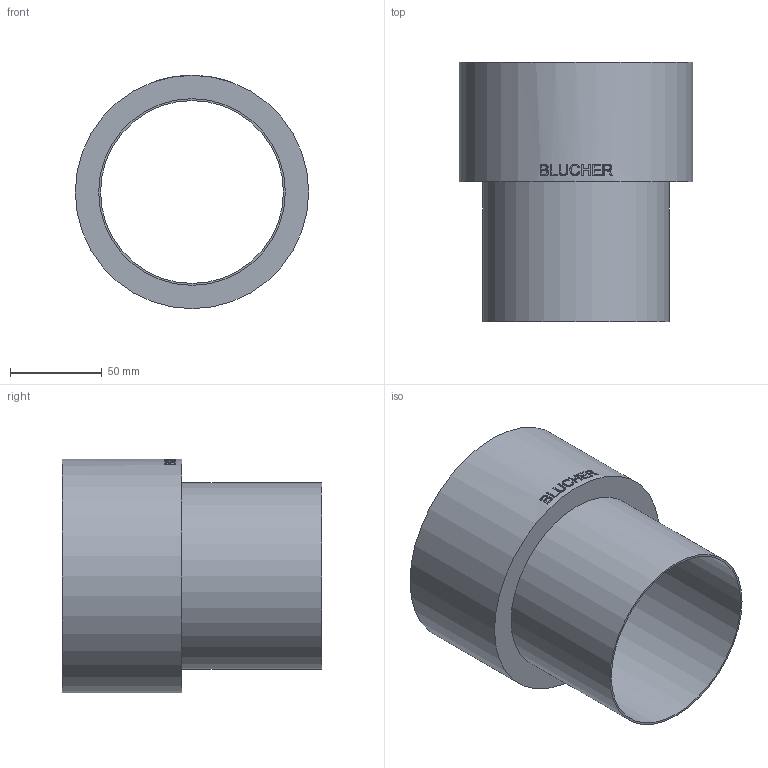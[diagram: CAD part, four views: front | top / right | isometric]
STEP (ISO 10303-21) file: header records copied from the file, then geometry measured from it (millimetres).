
FILE_DESCRIPTION((''),'2;1');
FILE_NAME('I:\WATTS\3D_CAD\3D_CAD_Models\Blucher_Drains\Fittings\Adapters\WebsiteFiles\3D\STEP\CIA-4-316.stp','2009-12-30T13:50:25',('menesek'),(''),'Autodesk Inventor 2010','Autodesk Inventor 2010','');
FILE_SCHEMA(('AUTOMOTIVE_DESIGN { 1 0 10303 214 1 1 1 1 }'));
Length unit declared in the file: inch
Products named in the file (1): CIA-4-316
Bounding box: 127 x 141.29 x 127 mm (x, y, z)
Volume: 55167.1 mm3; surface area: 109417.5 mm2
Topology: 1 solids, 1 shells, 106 faces, 276 edges, 184 vertices
Faces by surface type: plane 58, bspline 34, cylinder 14
Full cylindrical faces by diameter (mm): 99.568 x1, 101.6 x1, 124.968 x1, 127 x1
Entity records: 13821 total; most frequent: CARTESIAN_POINT 11477, ORIENTED_EDGE 544, DIRECTION 348, EDGE_CURVE 272, VERTEX_POINT 184, EDGE_LOOP 124, AXIS2_PLACEMENT_3D 116, VECTOR 116
